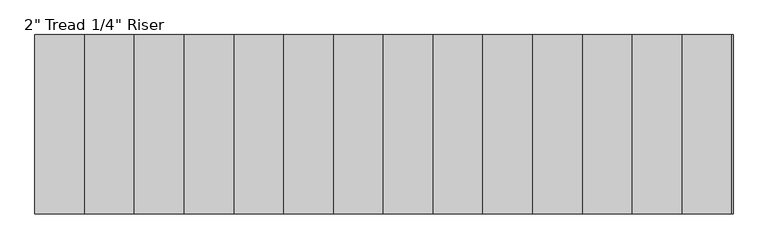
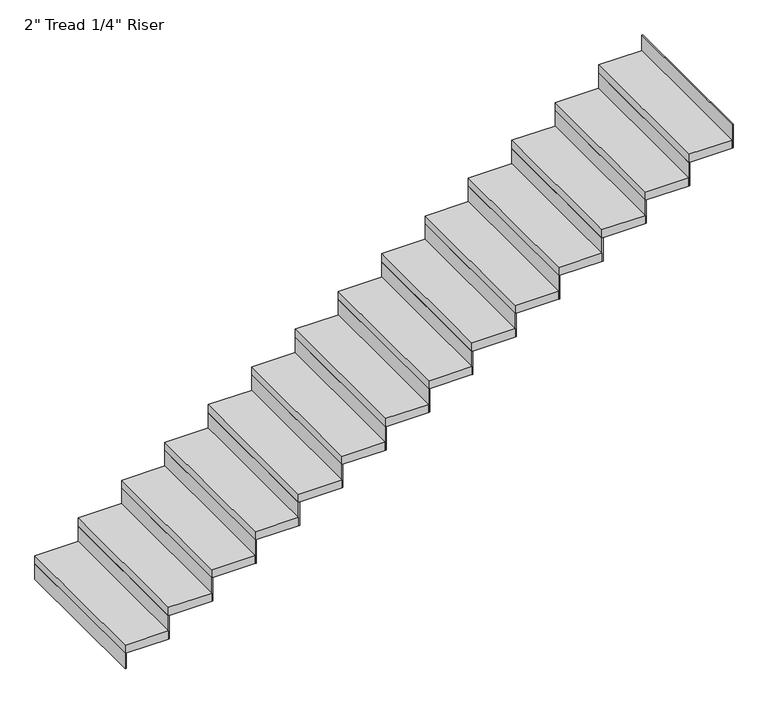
"""IFC4 building model written with IfcOpenShell, lengths in millimetres: stair flight geometry."""

from ifc_helpers import new_model, si_unit, frame, origin, origin_with_axes, place, context, project, spatial, polyline, outline, extrude, source, transform, mapped, element, save


def stair_flight_93157d2e(model_context):
    return source(origin(), model_context, "Body", "SweptSolid", [
        extrude(outline(polyline([(134755.6382982, 33927.1265585), (134749.2882982, 33927.1265585), (134749.2882982, 34841.5265585), (134755.6382982, 34841.5265585), (134755.6382982, 33927.1265585)])), origin_with_axes(), (0.0, 0.0, 1.0), 94.3428571),
        extrude(outline(polyline([(135003.2882982, 34841.5265585), (135003.2882982, 33927.1265585), (134749.2882982, 33927.1265585), (134749.2882982, 34841.5265585), (135003.2882982, 34841.5265585)])), frame((0.0, 0.0, 94.3428571), z_axis=(0.0, 0.0, 1.0), x_axis=(1.0, 0.0, 0.0)), (0.0, 0.0, 1.0), 50.8),
        extrude(outline(polyline([(135009.6382982, 33927.1265585), (135003.2882982, 33927.1265585), (135003.2882982, 34841.5265585), (135009.6382982, 34841.5265585), (135009.6382982, 33927.1265585)])), frame((0.0, 0.0, 94.3428571), z_axis=(0.0, 0.0, 1.0), x_axis=(1.0, 0.0, 0.0)), (0.0, 0.0, 1.0), 145.1428571),
        extrude(outline(polyline([(135257.2882982, 34841.5265585), (135257.2882982, 33927.1265585), (135003.2882982, 33927.1265585), (135003.2882982, 34841.5265585), (135257.2882982, 34841.5265585)])), frame((0.0, 0.0, 239.4857143), z_axis=(0.0, 0.0, 1.0), x_axis=(1.0, 0.0, 0.0)), (0.0, 0.0, 1.0), 50.8),
        extrude(outline(polyline([(135263.6382982, 33927.1265585), (135257.2882982, 33927.1265585), (135257.2882982, 34841.5265585), (135263.6382982, 34841.5265585), (135263.6382982, 33927.1265585)])), frame((0.0, 0.0, 239.4857143), z_axis=(0.0, 0.0, 1.0), x_axis=(1.0, 0.0, 0.0)), (0.0, 0.0, 1.0), 145.1428571),
        extrude(outline(polyline([(135511.2882982, 34841.5265585), (135511.2882982, 33927.1265585), (135257.2882982, 33927.1265585), (135257.2882982, 34841.5265585), (135511.2882982, 34841.5265585)])), frame((0.0, 0.0, 384.6285714), z_axis=(0.0, 0.0, 1.0), x_axis=(1.0, 0.0, 0.0)), (0.0, 0.0, 1.0), 50.8),
        extrude(outline(polyline([(135517.6382982, 33927.1265585), (135511.2882982, 33927.1265585), (135511.2882982, 34841.5265585), (135517.6382982, 34841.5265585), (135517.6382982, 33927.1265585)])), frame((0.0, 0.0, 384.6285714), z_axis=(0.0, 0.0, 1.0), x_axis=(1.0, 0.0, 0.0)), (0.0, 0.0, 1.0), 145.1428571),
        extrude(outline(polyline([(135765.2882982, 34841.5265585), (135765.2882982, 33927.1265585), (135511.2882982, 33927.1265585), (135511.2882982, 34841.5265585), (135765.2882982, 34841.5265585)])), frame((0.0, 0.0, 529.7714286), z_axis=(0.0, 0.0, 1.0), x_axis=(1.0, 0.0, 0.0)), (0.0, 0.0, 1.0), 50.8),
        extrude(outline(polyline([(135771.6382982, 33927.1265585), (135765.2882982, 33927.1265585), (135765.2882982, 34841.5265585), (135771.6382982, 34841.5265585), (135771.6382982, 33927.1265585)])), frame((0.0, 0.0, 529.7714286), z_axis=(0.0, 0.0, 1.0), x_axis=(1.0, 0.0, 0.0)), (0.0, 0.0, 1.0), 145.1428571),
        extrude(outline(polyline([(136019.2882982, 34841.5265585), (136019.2882982, 33927.1265585), (135765.2882982, 33927.1265585), (135765.2882982, 34841.5265585), (136019.2882982, 34841.5265585)])), frame((0.0, 0.0, 674.9142857), z_axis=(0.0, 0.0, 1.0), x_axis=(1.0, 0.0, 0.0)), (0.0, 0.0, 1.0), 50.8),
        extrude(outline(polyline([(136025.6382982, 33927.1265585), (136019.2882982, 33927.1265585), (136019.2882982, 34841.5265585), (136025.6382982, 34841.5265585), (136025.6382982, 33927.1265585)])), frame((0.0, 0.0, 674.9142857), z_axis=(0.0, 0.0, 1.0), x_axis=(1.0, 0.0, 0.0)), (0.0, 0.0, 1.0), 145.1428571),
        extrude(outline(polyline([(136273.2882982, 34841.5265585), (136273.2882982, 33927.1265585), (136019.2882982, 33927.1265585), (136019.2882982, 34841.5265585), (136273.2882982, 34841.5265585)])), frame((0.0, 0.0, 820.0571429), z_axis=(0.0, 0.0, 1.0), x_axis=(1.0, 0.0, 0.0)), (0.0, 0.0, 1.0), 50.8),
        extrude(outline(polyline([(136279.6382982, 33927.1265585), (136273.2882982, 33927.1265585), (136273.2882982, 34841.5265585), (136279.6382982, 34841.5265585), (136279.6382982, 33927.1265585)])), frame((0.0, 0.0, 820.0571429), z_axis=(0.0, 0.0, 1.0), x_axis=(1.0, 0.0, 0.0)), (0.0, 0.0, 1.0), 145.1428571),
        extrude(outline(polyline([(136527.2882982, 34841.5265585), (136527.2882982, 33927.1265585), (136273.2882982, 33927.1265585), (136273.2882982, 34841.5265585), (136527.2882982, 34841.5265585)])), frame((0.0, 0.0, 965.2), z_axis=(0.0, 0.0, 1.0), x_axis=(1.0, 0.0, 0.0)), (0.0, 0.0, 1.0), 50.8),
        extrude(outline(polyline([(136533.6382982, 33927.1265585), (136527.2882982, 33927.1265585), (136527.2882982, 34841.5265585), (136533.6382982, 34841.5265585), (136533.6382982, 33927.1265585)])), frame((0.0, 0.0, 965.2), z_axis=(0.0, 0.0, 1.0), x_axis=(1.0, 0.0, 0.0)), (0.0, 0.0, 1.0), 145.1428571),
        extrude(outline(polyline([(136781.2882982, 34841.5265585), (136781.2882982, 33927.1265585), (136527.2882982, 33927.1265585), (136527.2882982, 34841.5265585), (136781.2882982, 34841.5265585)])), frame((0.0, 0.0, 1110.3428571), z_axis=(0.0, 0.0, 1.0), x_axis=(1.0, 0.0, 0.0)), (0.0, 0.0, 1.0), 50.8),
        extrude(outline(polyline([(136787.6382982, 33927.1265585), (136781.2882982, 33927.1265585), (136781.2882982, 34841.5265585), (136787.6382982, 34841.5265585), (136787.6382982, 33927.1265585)])), frame((0.0, 0.0, 1110.3428571), z_axis=(0.0, 0.0, 1.0), x_axis=(1.0, 0.0, 0.0)), (0.0, 0.0, 1.0), 145.1428571),
        extrude(outline(polyline([(137035.2882982, 34841.5265585), (137035.2882982, 33927.1265585), (136781.2882982, 33927.1265585), (136781.2882982, 34841.5265585), (137035.2882982, 34841.5265585)])), frame((0.0, 0.0, 1255.4857143), z_axis=(0.0, 0.0, 1.0), x_axis=(1.0, 0.0, 0.0)), (0.0, 0.0, 1.0), 50.8),
        extrude(outline(polyline([(137041.6382982, 33927.1265585), (137035.2882982, 33927.1265585), (137035.2882982, 34841.5265585), (137041.6382982, 34841.5265585), (137041.6382982, 33927.1265585)])), frame((0.0, 0.0, 1255.4857143), z_axis=(0.0, 0.0, 1.0), x_axis=(1.0, 0.0, 0.0)), (0.0, 0.0, 1.0), 145.1428571),
        extrude(outline(polyline([(137289.2882982, 34841.5265585), (137289.2882982, 33927.1265585), (137035.2882982, 33927.1265585), (137035.2882982, 34841.5265585), (137289.2882982, 34841.5265585)])), frame((0.0, 0.0, 1400.6285714), z_axis=(0.0, 0.0, 1.0), x_axis=(1.0, 0.0, 0.0)), (0.0, 0.0, 1.0), 50.8),
        extrude(outline(polyline([(137295.6382982, 33927.1265585), (137289.2882982, 33927.1265585), (137289.2882982, 34841.5265585), (137295.6382982, 34841.5265585), (137295.6382982, 33927.1265585)])), frame((0.0, 0.0, 1400.6285714), z_axis=(0.0, 0.0, 1.0), x_axis=(1.0, 0.0, 0.0)), (0.0, 0.0, 1.0), 145.1428571),
        extrude(outline(polyline([(137543.2882982, 34841.5265585), (137543.2882982, 33927.1265585), (137289.2882982, 33927.1265585), (137289.2882982, 34841.5265585), (137543.2882982, 34841.5265585)])), frame((0.0, 0.0, 1545.7714286), z_axis=(0.0, 0.0, 1.0), x_axis=(1.0, 0.0, 0.0)), (0.0, 0.0, 1.0), 50.8),
        extrude(outline(polyline([(137549.6382982, 33927.1265585), (137543.2882982, 33927.1265585), (137543.2882982, 34841.5265585), (137549.6382982, 34841.5265585), (137549.6382982, 33927.1265585)])), frame((0.0, 0.0, 1545.7714286), z_axis=(0.0, 0.0, 1.0), x_axis=(1.0, 0.0, 0.0)), (0.0, 0.0, 1.0), 145.1428571),
        extrude(outline(polyline([(137797.2882982, 34841.5265585), (137797.2882982, 33927.1265585), (137543.2882982, 33927.1265585), (137543.2882982, 34841.5265585), (137797.2882982, 34841.5265585)])), frame((0.0, 0.0, 1690.9142857), z_axis=(0.0, 0.0, 1.0), x_axis=(1.0, 0.0, 0.0)), (0.0, 0.0, 1.0), 50.8),
        extrude(outline(polyline([(137803.6382982, 33927.1265585), (137797.2882982, 33927.1265585), (137797.2882982, 34841.5265585), (137803.6382982, 34841.5265585), (137803.6382982, 33927.1265585)])), frame((0.0, 0.0, 1690.9142857), z_axis=(0.0, 0.0, 1.0), x_axis=(1.0, 0.0, 0.0)), (0.0, 0.0, 1.0), 145.1428571),
        extrude(outline(polyline([(138051.2882982, 34841.5265585), (138051.2882982, 33927.1265585), (137797.2882982, 33927.1265585), (137797.2882982, 34841.5265585), (138051.2882982, 34841.5265585)])), frame((0.0, 0.0, 1836.0571429), z_axis=(0.0, 0.0, 1.0), x_axis=(1.0, 0.0, 0.0)), (0.0, 0.0, 1.0), 50.8),
        extrude(outline(polyline([(138057.6382982, 33927.1265585), (138051.2882982, 33927.1265585), (138051.2882982, 34841.5265585), (138057.6382982, 34841.5265585), (138057.6382982, 33927.1265585)])), frame((0.0, 0.0, 1836.0571429), z_axis=(0.0, 0.0, 1.0), x_axis=(1.0, 0.0, 0.0)), (0.0, 0.0, 1.0), 145.1428571),
        extrude(outline(polyline([(138311.6382982, 33927.1265585), (138305.2882982, 33927.1265585), (138305.2882982, 34841.5265585), (138311.6382982, 34841.5265585), (138311.6382982, 33927.1265585)])), frame((0.0, 0.0, 1981.2), z_axis=(0.0, 0.0, 1.0), x_axis=(1.0, 0.0, 0.0)), (0.0, 0.0, 1.0), 145.1428571),
        extrude(outline(polyline([(138305.2882982, 34841.5265585), (138305.2882982, 33927.1265585), (138051.2882982, 33927.1265585), (138051.2882982, 34841.5265585), (138305.2882982, 34841.5265585)])), frame((0.0, 0.0, 1981.2), z_axis=(0.0, 0.0, 1.0), x_axis=(1.0, 0.0, 0.0)), (0.0, 0.0, 1.0), 50.8),
    ])


if __name__ == "__main__":
    model = new_model("IFC4")
    model_context = context("Model", 3, world=origin())
    ifc_project = project(units=[si_unit("LENGTHUNIT", "METRE", prefix="MILLI")], contexts=[model_context])
    site = spatial("IfcSite", under=ifc_project)
    building = spatial("IfcBuilding", under=site)
    placement = place(None, origin())
    stair_flight_shape = stair_flight_93157d2e(model_context)
    element("IfcStairFlight", 1, ObjectType="2\" Tread 1/4\" Riser", at=placement, inside=building, context=model_context, shape_type="MappedRepresentation", body=[
        mapped(stair_flight_shape, transform((0.0, 0.0, 0.0), x_axis=(1.0, 0.0, 0.0), y_axis=(0.0, 1.0, 0.0), z_axis=(0.0, 0.0, 1.0))),
    ])
    save(model, "model.ifc")
